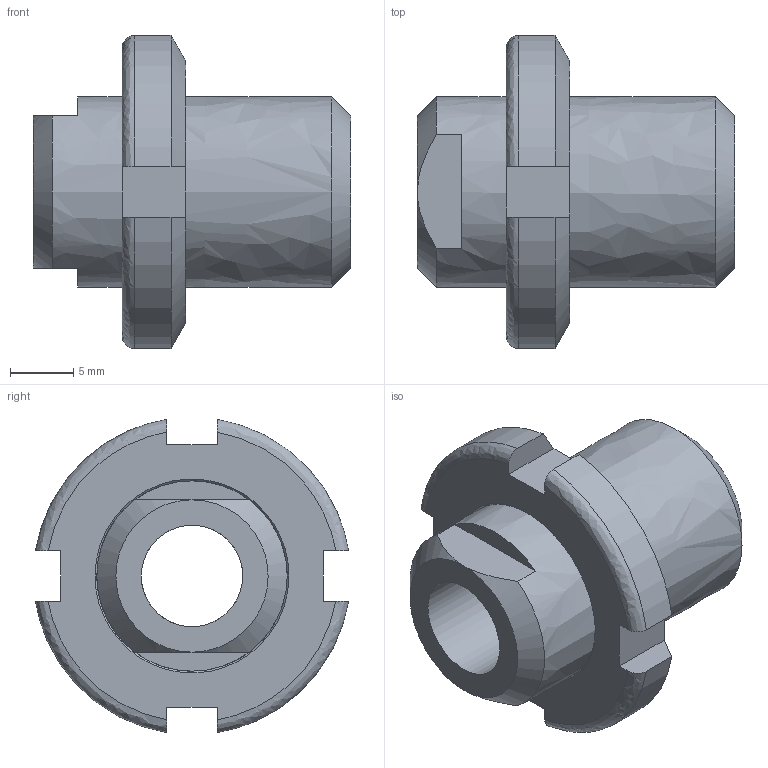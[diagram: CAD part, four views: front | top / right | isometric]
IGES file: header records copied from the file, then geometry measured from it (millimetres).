
Global section: file name: 03.60; native system: Autodesk Inventor 2014; preprocessor: unknown; author: APto; date: 20150401.103936; units: millimetre
Bounding box: 25 x 24.68 x 24.68 mm (x, y, z)
Volume: 4335.5 mm3; surface area: 3146.4 mm2
Topology: 2 solids, 2 shells, 40 faces, 109 edges, 73 vertices
Faces by surface type: bspline 40
